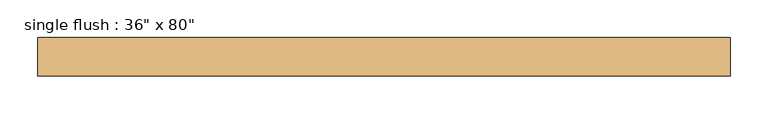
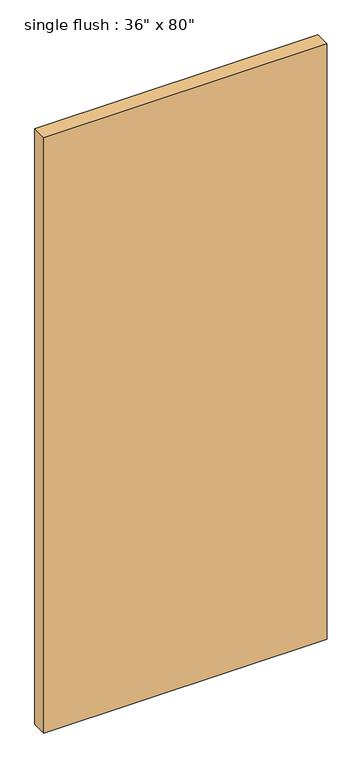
"""IFC4 building model written with IfcOpenShell, lengths in millimetres: door geometry."""

from ifc_helpers import new_model, si_unit, origin, origin_with_axes, place, context, project, spatial, polyline, outline, extrude, source, transform, mapped, element, save


def door_5940df63(model_context):
    return source(origin(), model_context, "Body", "SweptSolid", [
        extrude(outline(polyline([(457.2, 96.8375), (-457.2, 96.8375), (-457.2, 147.6375), (457.2, 147.6375), (457.2, 96.8375)])), origin_with_axes(), (0.0, 0.0, 1.0), 2032.0),
    ])


if __name__ == "__main__":
    model = new_model("IFC4")
    model_context = context("Model", 3, world=origin())
    ifc_project = project(units=[si_unit("LENGTHUNIT", "METRE", prefix="MILLI")], contexts=[model_context])
    site = spatial("IfcSite", under=ifc_project)
    building = spatial("IfcBuilding", under=site)
    placement = place(None, origin())
    door_shape = door_5940df63(model_context)
    element("IfcDoor", 1, ObjectType="single flush : 36\" x 80\"", at=placement, inside=building, context=model_context, shape_type="MappedRepresentation", body=[
        mapped(door_shape, transform((0.0, 0.0, 0.0), x_axis=(1.0, 0.0, 0.0), y_axis=(0.0, 1.0, 0.0), z_axis=(0.0, 0.0, 1.0))),
    ])
    save(model, "model.ifc")
